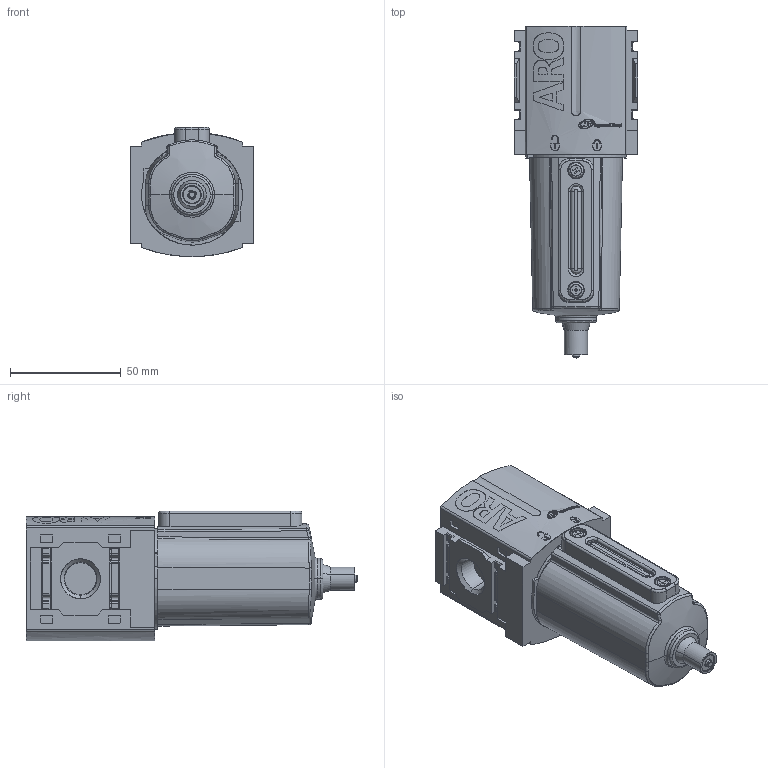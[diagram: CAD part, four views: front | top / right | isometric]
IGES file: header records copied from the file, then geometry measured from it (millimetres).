
Global section: file name: C:\Documents and Settings\szeedyk\Desktop\F352X1-X1X_01.igs; native system: NX V4.0; preprocessor: UGS NX IGES V4.0; date: 20090203.141509; units: inch
Bounding box: 56 x 150.01 x 58.5 mm (x, y, z)
Surface area: 31906.6 mm2 (no closed solid volume)
Topology: 0 solids, 0 shells, 1071 faces, 6090 edges, 6090 vertices
Faces by surface type: bspline 1071
